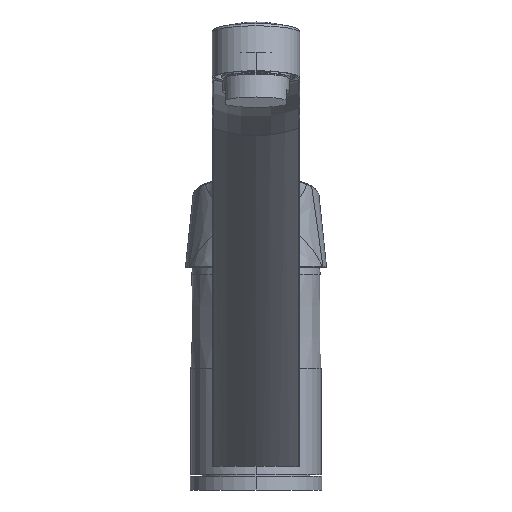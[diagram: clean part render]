
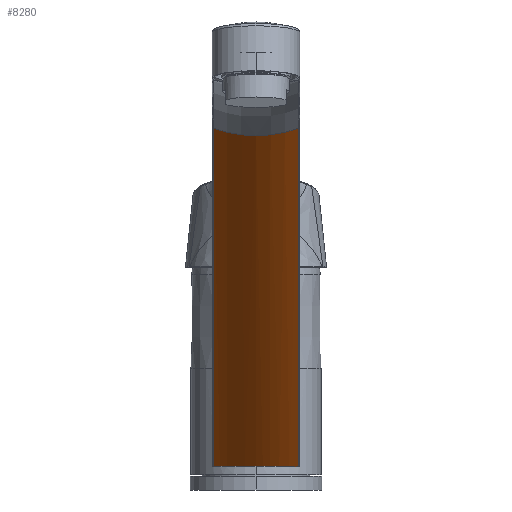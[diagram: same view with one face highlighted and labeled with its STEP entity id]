
A CAD part, front view. The second image highlights one B-rep face of the part: STEP entity #8280.
In plain terms, the highlighted cylindrical face has radius 35 mm (diameter 70 mm), a partial arc.
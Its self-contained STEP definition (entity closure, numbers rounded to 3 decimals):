
#2753=CARTESIAN_POINT('',(15.287,-17.848,8.346));
#2754=CARTESIAN_POINT('',(14.601,-18.436,8.404));
#2755=CARTESIAN_POINT('',(13.16,-19.533,8.484));
#2756=CARTESIAN_POINT('',(10.789,-20.939,8.531));
#2757=CARTESIAN_POINT('',(8.232,-22.07,8.535));
#2758=CARTESIAN_POINT('',(5.543,-22.896,8.52));
#2759=CARTESIAN_POINT('',(2.736,-23.396,8.504));
#2760=CARTESIAN_POINT('',(0.909,-23.5,8.5));
#2761=CARTESIAN_POINT('',(0.,-23.5,8.5));
#2763=CARTESIAN_POINT('',(0.,-23.5,8.5));
#2764=CARTESIAN_POINT('',(-0.91,-23.5,8.5));
#2765=CARTESIAN_POINT('',(-2.738,-23.396,
8.504));
#2766=CARTESIAN_POINT('',(-5.542,-22.896,
8.52));
#2767=CARTESIAN_POINT('',(-8.231,-22.071,
8.535));
#2768=CARTESIAN_POINT('',(-10.789,-20.938,
8.531));
#2769=CARTESIAN_POINT('',(-13.161,-19.533,
8.484));
#2770=CARTESIAN_POINT('',(-14.601,-18.436,
8.404));
#2771=CARTESIAN_POINT('',(-15.287,-17.848,
8.346));
#2773=DIRECTION('',(0.,0.766,-0.643));
#2774=VECTOR('',#2773,190.27);
#2775=CARTESIAN_POINT('',(-15.287,-163.604,
130.649));
#2776=LINE('',#2775,#2774);
#2777=DIRECTION('',(0.,0.766,-0.643));
#2778=VECTOR('',#2777,190.27);
#2779=CARTESIAN_POINT('',(15.287,-163.604,130.649));
#2780=LINE('',#2779,#2778);
#3097=CARTESIAN_POINT('',(0.,-143.365,154.768));
#3098=DIRECTION('',(0.,-0.766,0.643));
#3099=DIRECTION('',(-0.437,-0.578,-0.689));
#3100=AXIS2_PLACEMENT_3D('',#3097,#3098,#3099);
#5102=CARTESIAN_POINT('',(-15.287,-163.604,
130.649));
#5104=VERTEX_POINT('',#5102);
#5119=CARTESIAN_POINT('',(15.287,-163.604,130.649));
#5121=VERTEX_POINT('',#5119);
#5809=VERTEX_POINT('',#2753);
#5810=VERTEX_POINT('',#2761);
#5811=VERTEX_POINT('',#2771);
#8266=CARTESIAN_POINT('',(0.,22.498,15.593));
#8267=DIRECTION('',(0.,-0.766,0.643));
#8268=DIRECTION('',(0.,0.643,0.766));
#8269=AXIS2_PLACEMENT_3D('',#8266,#8267,#8268);
#8270=CYLINDRICAL_SURFACE('',#8269,35.);
#8271=ORIENTED_EDGE('',*,*,#7863,.T.);
#8272=ORIENTED_EDGE('',*,*,#7894,.T.);
#8274=ORIENTED_EDGE('',*,*,#8273,.F.);
#8276=ORIENTED_EDGE('',*,*,#8275,.T.);
#8277=ORIENTED_EDGE('',*,*,#8258,.T.);
#8278=EDGE_LOOP('',(#8271,#8272,#8274,#8276,#8277));
#8279=FACE_OUTER_BOUND('',#8278,.F.);
#8280=ADVANCED_FACE('',(#8279),#8270,.T.);
#2762=B_SPLINE_CURVE_WITH_KNOTS('',3,(#2753,#2754,#2755,#2756,#2757,#2758,#2759,
#2760,#2761),.UNSPECIFIED.,.F.,.F.,(4,1,1,1,1,1,4),(0.,0.167,
0.333,0.5,0.667,0.833,1.),
.UNSPECIFIED.);
#2772=B_SPLINE_CURVE_WITH_KNOTS('',3,(#2763,#2764,#2765,#2766,#2767,#2768,#2769,
#2770,#2771),.UNSPECIFIED.,.F.,.F.,(4,1,1,1,1,1,4),(0.,0.167,
0.333,0.5,0.667,0.833,1.),
.UNSPECIFIED.);
#3101=CIRCLE('',#3100,35.);
#7863=EDGE_CURVE('',#5809,#5810,#2762,.T.);
#7894=EDGE_CURVE('',#5810,#5811,#2772,.T.);
#8258=EDGE_CURVE('',#5121,#5809,#2780,.T.);
#8273=EDGE_CURVE('',#5104,#5811,#2776,.T.);
#8275=EDGE_CURVE('',#5104,#5121,#3101,.T.);
